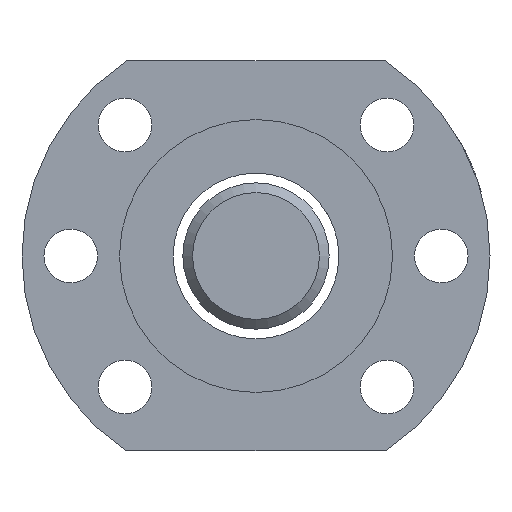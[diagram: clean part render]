
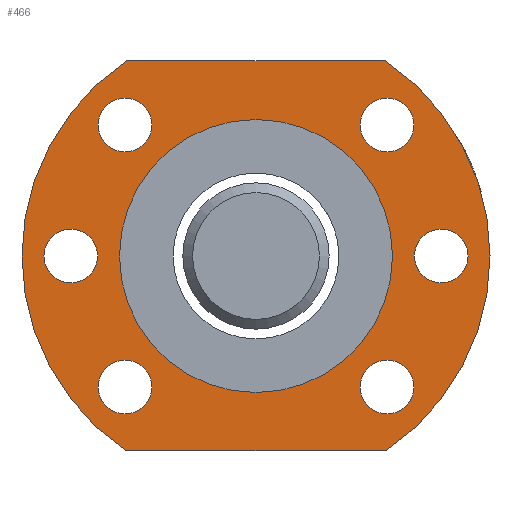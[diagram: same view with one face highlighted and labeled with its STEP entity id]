
A CAD part, left-side view. The second image highlights one B-rep face of the part: STEP entity #466.
In plain terms, the highlighted planar face has unit normal (-1, 0, 0).
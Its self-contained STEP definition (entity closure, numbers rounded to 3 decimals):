
#60=PLANE('',#543);
#75=CIRCLE('',#513,24.);
#87=CIRCLE('',#528,2.75);
#88=CIRCLE('',#530,2.75);
#89=CIRCLE('',#532,2.75);
#90=CIRCLE('',#534,2.75);
#91=CIRCLE('',#536,2.75);
#92=CIRCLE('',#538,2.75);
#93=CIRCLE('',#542,24.);
#94=CIRCLE('',#544,14.);
#151=ORIENTED_EDGE('',*,*,#226,.T.);
#152=ORIENTED_EDGE('',*,*,#228,.T.);
#153=ORIENTED_EDGE('',*,*,#229,.F.);
#154=ORIENTED_EDGE('',*,*,#230,.F.);
#155=ORIENTED_EDGE('',*,*,#231,.F.);
#156=ORIENTED_EDGE('',*,*,#236,.T.);
#157=ORIENTED_EDGE('',*,*,#234,.T.);
#158=ORIENTED_EDGE('',*,*,#208,.T.);
#159=ORIENTED_EDGE('',*,*,#232,.T.);
#160=ORIENTED_EDGE('',*,*,#237,.F.);
#161=ORIENTED_EDGE('',*,*,#227,.T.);
#208=EDGE_CURVE('',#256,#258,#75,.T.);
#226=EDGE_CURVE('',#275,#275,#87,.T.);
#227=EDGE_CURVE('',#276,#276,#88,.T.);
#228=EDGE_CURVE('',#277,#277,#89,.T.);
#229=EDGE_CURVE('',#278,#278,#90,.T.);
#230=EDGE_CURVE('',#279,#279,#91,.T.);
#231=EDGE_CURVE('',#280,#280,#92,.T.);
#232=EDGE_CURVE('',#258,#281,#300,.T.);
#234=EDGE_CURVE('',#282,#256,#302,.T.);
#236=EDGE_CURVE('',#281,#282,#93,.T.);
#237=EDGE_CURVE('',#283,#283,#94,.T.);
#256=VERTEX_POINT('',#712);
#258=VERTEX_POINT('',#716);
#275=VERTEX_POINT('',#773);
#276=VERTEX_POINT('',#776);
#277=VERTEX_POINT('',#779);
#278=VERTEX_POINT('',#782);
#279=VERTEX_POINT('',#785);
#280=VERTEX_POINT('',#788);
#281=VERTEX_POINT('',#791);
#282=VERTEX_POINT('',#795);
#283=VERTEX_POINT('',#801);
#300=LINE('',#790,#308);
#302=LINE('',#794,#310);
#308=VECTOR('',#638,1000.);
#310=VECTOR('',#642,1000.);
#339=EDGE_LOOP('',(#151));
#340=EDGE_LOOP('',(#152));
#341=EDGE_LOOP('',(#153));
#342=EDGE_LOOP('',(#154));
#343=EDGE_LOOP('',(#155));
#344=EDGE_LOOP('',(#156,#157,#158,#159));
#345=EDGE_LOOP('',(#160));
#346=EDGE_LOOP('',(#161));
#402=FACE_BOUND('',#339,.T.);
#403=FACE_BOUND('',#340,.T.);
#404=FACE_BOUND('',#341,.T.);
#405=FACE_BOUND('',#342,.T.);
#406=FACE_BOUND('',#343,.T.);
#407=FACE_BOUND('',#344,.T.);
#408=FACE_BOUND('',#345,.T.);
#409=FACE_BOUND('',#346,.T.);
#466=ADVANCED_FACE('',(#402,#403,#404,#405,#406,#407,#408,#409),#60,.T.);
#513=AXIS2_PLACEMENT_3D('',#717,#582,#583);
#528=AXIS2_PLACEMENT_3D('',#772,#614,#615);
#530=AXIS2_PLACEMENT_3D('',#775,#618,#619);
#532=AXIS2_PLACEMENT_3D('',#778,#622,#623);
#534=AXIS2_PLACEMENT_3D('',#781,#626,#627);
#536=AXIS2_PLACEMENT_3D('',#784,#630,#631);
#538=AXIS2_PLACEMENT_3D('',#787,#634,#635);
#542=AXIS2_PLACEMENT_3D('',#798,#646,#647);
#543=AXIS2_PLACEMENT_3D('',#799,#648,#649);
#544=AXIS2_PLACEMENT_3D('',#800,#650,#651);
#582=DIRECTION('',(-1.,0.,0.));
#583=DIRECTION('',(0.,0.,-1.));
#614=DIRECTION('',(1.,0.,0.));
#615=DIRECTION('',(0.,0.,1.));
#618=DIRECTION('',(1.,0.,0.));
#619=DIRECTION('',(0.,0.,1.));
#622=DIRECTION('',(1.,0.,0.));
#623=DIRECTION('',(0.,0.,1.));
#626=DIRECTION('',(-1.,0.,0.));
#627=DIRECTION('',(0.,0.,1.));
#630=DIRECTION('',(-1.,0.,0.));
#631=DIRECTION('',(0.,0.,1.));
#634=DIRECTION('',(-1.,0.,0.));
#635=DIRECTION('',(0.,0.,1.));
#638=DIRECTION('',(0.,1.,0.));
#642=DIRECTION('',(0.,-1.,0.));
#646=DIRECTION('',(-1.,0.,0.));
#647=DIRECTION('',(0.,0.,-1.));
#648=DIRECTION('',(-1.,0.,0.));
#649=DIRECTION('',(0.,0.,-1.));
#650=DIRECTION('',(-1.,0.,0.));
#651=DIRECTION('',(0.,0.,-1.));
#712=CARTESIAN_POINT('',(-26.222,-64.814,-16.935));
#716=CARTESIAN_POINT('',(-26.222,-64.814,23.065));
#717=CARTESIAN_POINT('',(-26.222,-51.547,3.065));
#772=CARTESIAN_POINT('',(-26.222,-64.982,16.5));
#773=CARTESIAN_POINT('',(-26.222,-64.982,19.25));
#775=CARTESIAN_POINT('',(-26.222,-70.547,3.065));
#776=CARTESIAN_POINT('',(-26.222,-70.547,5.815));
#778=CARTESIAN_POINT('',(-26.222,-64.982,-10.37));
#779=CARTESIAN_POINT('',(-26.222,-64.982,-7.62));
#781=CARTESIAN_POINT('',(-26.222,-38.112,-10.37));
#782=CARTESIAN_POINT('',(-26.222,-38.112,-7.62));
#784=CARTESIAN_POINT('',(-26.222,-38.112,16.5));
#785=CARTESIAN_POINT('',(-26.222,-38.112,19.25));
#787=CARTESIAN_POINT('',(-26.222,-32.547,3.065));
#788=CARTESIAN_POINT('',(-26.222,-32.547,5.815));
#790=CARTESIAN_POINT('',(-26.222,-64.814,23.065));
#791=CARTESIAN_POINT('',(-26.222,-38.281,23.065));
#794=CARTESIAN_POINT('',(-26.222,-38.281,-16.935));
#795=CARTESIAN_POINT('',(-26.222,-38.281,-16.935));
#798=CARTESIAN_POINT('',(-26.222,-51.547,3.065));
#799=CARTESIAN_POINT('',(-26.222,-51.547,3.065));
#800=CARTESIAN_POINT('',(-26.222,-51.547,3.065));
#801=CARTESIAN_POINT('',(-26.222,-51.547,-10.935));
